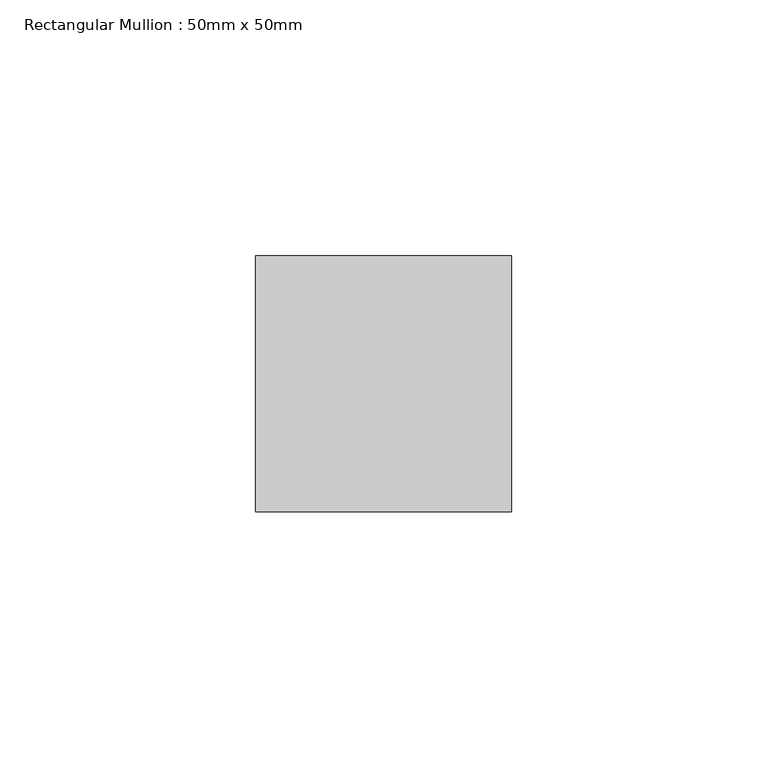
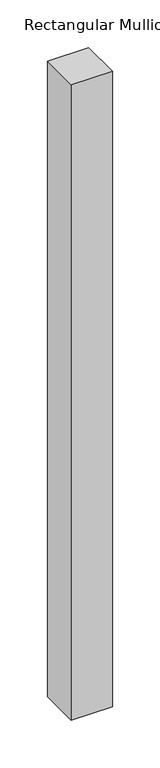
"""IFC4 building model written with IfcOpenShell, lengths in millimetres: member geometry, Rectangular Mullion : 50mm x 50mm."""

from ifc_helpers import new_model, si_unit, frame, origin, place, context, project, spatial, polyline, outline, extrude, source, transform, mapped, element, save


def rectangular_mullion_50mm_x_50mm_b88d9563(model_context):
    return source(origin(), model_context, "Body", "SweptSolid", [
        extrude(outline(polyline([(25.0, 25.0), (25.0, -25.0), (-25.0, -25.0), (-25.0, 25.0), (25.0, 25.0)])), frame((0.0, 0.0, -815.8795558), z_axis=(0.0, 0.0, 1.0), x_axis=(1.0, 0.0, 0.0)), (0.0, 0.0, 1.0), 815.8795558),
    ])


if __name__ == "__main__":
    model = new_model("IFC4")
    model_context = context("Model", 3, world=origin())
    ifc_project = project(units=[si_unit("LENGTHUNIT", "METRE", prefix="MILLI")], contexts=[model_context])
    site = spatial("IfcSite", under=ifc_project)
    building = spatial("IfcBuilding", under=site)
    placement = place(None, origin())
    rectangular_mullion_50mm_x_50mm_shape = rectangular_mullion_50mm_x_50mm_b88d9563(model_context)
    element("IfcMember", 1, ObjectType="Rectangular Mullion : 50mm x 50mm", at=placement, inside=building, context=model_context, shape_type="MappedRepresentation", body=[
        mapped(rectangular_mullion_50mm_x_50mm_shape, transform((0.0, 0.0, 0.0), x_axis=(1.0, 0.0, 0.0), y_axis=(0.0, 1.0, 0.0), z_axis=(0.0, 0.0, 1.0))),
    ])
    save(model, "model.ifc")
